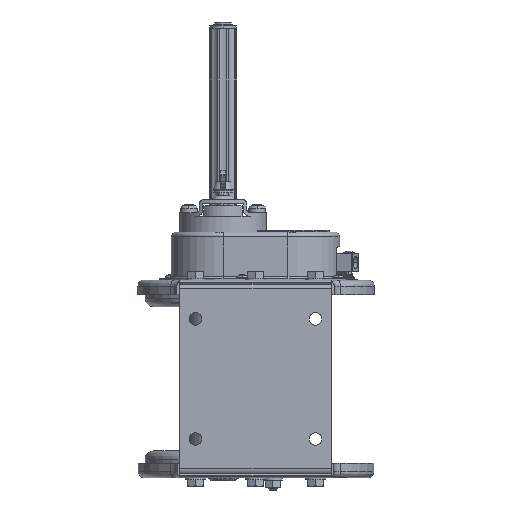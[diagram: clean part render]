
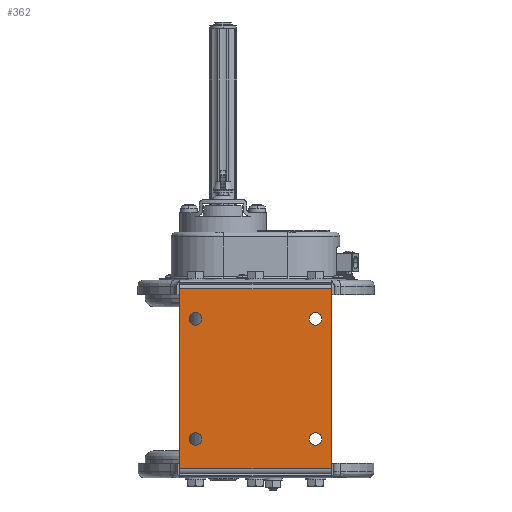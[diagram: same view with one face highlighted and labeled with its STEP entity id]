
A CAD part, front view. The second image highlights one B-rep face of the part: STEP entity #362.
In plain terms, the highlighted planar face has unit normal (0, -1, 0).
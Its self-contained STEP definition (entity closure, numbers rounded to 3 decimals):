
#362=ADVANCED_FACE('',(#4569,#4570,#4571,#4572,#4573),#4568,.F.);
#4568=PLANE('',#26644);
#4569=FACE_OUTER_BOUND('',#26645,.T.);
#4570=FACE_BOUND('',#26646,.T.);
#4571=FACE_BOUND('',#26647,.T.);
#4572=FACE_BOUND('',#26648,.T.);
#4573=FACE_BOUND('',#26649,.T.);
#26641=CARTESIAN_POINT('',(-184.621,-15.835,-160.482));
#26642=DIRECTION('',(0.,1.,0.));
#26643=DIRECTION('',(0.,0.,1.));
#26644=AXIS2_PLACEMENT_3D('',#26641,#26642,#26643);
#26645=EDGE_LOOP('',(#42851,#42852,#42853,#42854));
#26646=EDGE_LOOP('',(#42855,#42856));
#26647=EDGE_LOOP('',(#42857,#42858));
#26648=EDGE_LOOP('',(#42859,#42860));
#26649=EDGE_LOOP('',(#42861,#42862));
#42851=ORIENTED_EDGE('',*,*,#54153,.F.);
#42852=ORIENTED_EDGE('',*,*,#54155,.F.);
#42853=ORIENTED_EDGE('',*,*,#54097,.T.);
#42854=ORIENTED_EDGE('',*,*,#54156,.T.);
#42855=ORIENTED_EDGE('',*,*,#54157,.T.);
#42856=ORIENTED_EDGE('',*,*,#54158,.T.);
#42857=ORIENTED_EDGE('',*,*,#54159,.T.);
#42858=ORIENTED_EDGE('',*,*,#54160,.T.);
#42859=ORIENTED_EDGE('',*,*,#54161,.T.);
#42860=ORIENTED_EDGE('',*,*,#54162,.T.);
#42861=ORIENTED_EDGE('',*,*,#54163,.T.);
#42862=ORIENTED_EDGE('',*,*,#54164,.T.);
#54097=EDGE_CURVE('',#64051,#64065,#64072,.T.);
#54153=EDGE_CURVE('',#64451,#64458,#64459,.T.);
#54155=EDGE_CURVE('',#64051,#64451,#64471,.T.);
#54156=EDGE_CURVE('',#64065,#64458,#64477,.T.);
#54157=EDGE_CURVE('',#64483,#64484,#64485,.T.);
#54158=EDGE_CURVE('',#64484,#64483,#64491,.T.);
#54159=EDGE_CURVE('',#64497,#64498,#64499,.T.);
#54160=EDGE_CURVE('',#64498,#64497,#64505,.T.);
#54161=EDGE_CURVE('',#64511,#64512,#64513,.T.);
#54162=EDGE_CURVE('',#64512,#64511,#64519,.T.);
#54163=EDGE_CURVE('',#64525,#64526,#64527,.T.);
#54164=EDGE_CURVE('',#64526,#64525,#64533,.T.);
#64051=VERTEX_POINT('',#101065);
#64065=VERTEX_POINT('',#101074);
#64072=LINE('',#101079,#101080);
#64451=VERTEX_POINT('',#101332);
#64458=VERTEX_POINT('',#101337);
#64459=LINE('',#101338,#101339);
#64471=LINE('',#101345,#101346);
#64477=LINE('',#101348,#101349);
#64483=VERTEX_POINT('',#101351);
#64484=VERTEX_POINT('',#101352);
#64485=CIRCLE('',#101356,5.25);
#64491=CIRCLE('',#101360,5.25);
#64497=VERTEX_POINT('',#101361);
#64498=VERTEX_POINT('',#101362);
#64499=CIRCLE('',#101366,5.25);
#64505=CIRCLE('',#101370,5.25);
#64511=VERTEX_POINT('',#101371);
#64512=VERTEX_POINT('',#101372);
#64513=CIRCLE('',#101376,5.25);
#64519=CIRCLE('',#101380,5.25);
#64525=VERTEX_POINT('',#101381);
#64526=VERTEX_POINT('',#101382);
#64527=CIRCLE('',#101386,5.25);
#64533=CIRCLE('',#101390,5.25);
#101065=CARTESIAN_POINT('',(-48.621,-15.835,-0.482));
#101074=CARTESIAN_POINT('',(-174.621,-15.835,-0.482));
#101079=CARTESIAN_POINT('',(-48.621,-15.835,-0.482));
#101080=VECTOR('',#101081,126.);
#101081=DIRECTION('',(-1.,0.,0.));
#101332=CARTESIAN_POINT('',(-48.621,-15.835,-150.482));
#101337=CARTESIAN_POINT('',(-174.621,-15.835,-150.482));
#101338=CARTESIAN_POINT('',(-48.621,-15.835,-150.482));
#101339=VECTOR('',#101340,126.);
#101340=DIRECTION('',(-1.,0.,0.));
#101345=CARTESIAN_POINT('',(-48.621,-15.835,-0.482));
#101346=VECTOR('',#101347,150.);
#101347=DIRECTION('',(0.,0.,-1.));
#101348=CARTESIAN_POINT('',(-174.621,-15.835,-0.482));
#101349=VECTOR('',#101350,150.);
#101350=DIRECTION('',(0.,0.,-1.));
#101351=CARTESIAN_POINT('',(-161.621,-15.835,-120.232));
#101352=CARTESIAN_POINT('',(-161.621,-15.835,-130.732));
#101353=CARTESIAN_POINT('',(-161.621,-15.835,-125.482));
#101354=DIRECTION('',(0.,1.,0.));
#101355=DIRECTION('',(0.,0.,1.));
#101356=AXIS2_PLACEMENT_3D('',#101353,#101354,#101355);
#101357=CARTESIAN_POINT('',(-161.621,-15.835,-125.482));
#101358=DIRECTION('',(0.,1.,0.));
#101359=DIRECTION('',(0.,0.,1.));
#101360=AXIS2_PLACEMENT_3D('',#101357,#101358,#101359);
#101361=CARTESIAN_POINT('',(-61.621,-15.835,-120.232));
#101362=CARTESIAN_POINT('',(-61.621,-15.835,-130.732));
#101363=CARTESIAN_POINT('',(-61.621,-15.835,-125.482));
#101364=DIRECTION('',(0.,1.,0.));
#101365=DIRECTION('',(0.,0.,1.));
#101366=AXIS2_PLACEMENT_3D('',#101363,#101364,#101365);
#101367=CARTESIAN_POINT('',(-61.621,-15.835,-125.482));
#101368=DIRECTION('',(0.,1.,0.));
#101369=DIRECTION('',(0.,0.,1.));
#101370=AXIS2_PLACEMENT_3D('',#101367,#101368,#101369);
#101371=CARTESIAN_POINT('',(-61.621,-15.835,-20.232));
#101372=CARTESIAN_POINT('',(-61.621,-15.835,-30.732));
#101373=CARTESIAN_POINT('',(-61.621,-15.835,-25.482));
#101374=DIRECTION('',(0.,1.,0.));
#101375=DIRECTION('',(0.,0.,1.));
#101376=AXIS2_PLACEMENT_3D('',#101373,#101374,#101375);
#101377=CARTESIAN_POINT('',(-61.621,-15.835,-25.482));
#101378=DIRECTION('',(0.,1.,0.));
#101379=DIRECTION('',(0.,0.,1.));
#101380=AXIS2_PLACEMENT_3D('',#101377,#101378,#101379);
#101381=CARTESIAN_POINT('',(-161.621,-15.835,-20.232));
#101382=CARTESIAN_POINT('',(-161.621,-15.835,-30.732));
#101383=CARTESIAN_POINT('',(-161.621,-15.835,-25.482));
#101384=DIRECTION('',(0.,1.,0.));
#101385=DIRECTION('',(0.,0.,1.));
#101386=AXIS2_PLACEMENT_3D('',#101383,#101384,#101385);
#101387=CARTESIAN_POINT('',(-161.621,-15.835,-25.482));
#101388=DIRECTION('',(0.,1.,0.));
#101389=DIRECTION('',(0.,0.,1.));
#101390=AXIS2_PLACEMENT_3D('',#101387,#101388,#101389);
